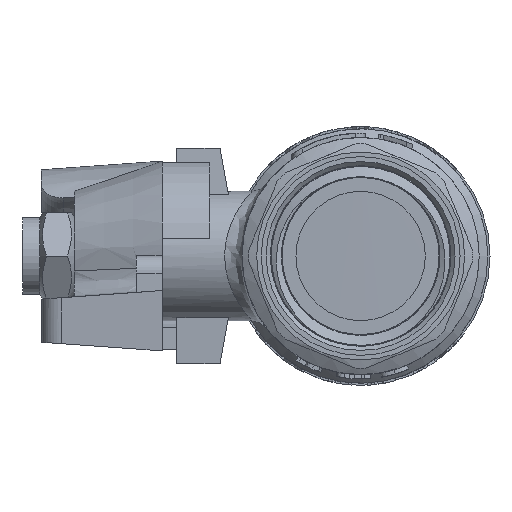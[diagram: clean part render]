
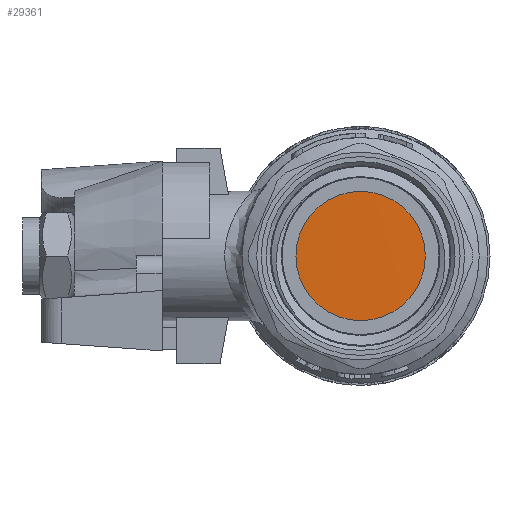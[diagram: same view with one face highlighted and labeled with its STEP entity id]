
A CAD part, left-side view. The second image highlights one B-rep face of the part: STEP entity #29361.
In plain terms, the highlighted cylindrical face has radius 13 mm (diameter 26 mm), a full revolution.
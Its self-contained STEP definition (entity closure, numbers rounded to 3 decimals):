
#635=CYLINDRICAL_SURFACE('',#31188,13.);
#3027=B_SPLINE_CURVE_WITH_KNOTS('',3,(#94407,#94408,#94409,#94410,#94411,
#94412,#94413,#94414,#94415,#94416,#94417,#94418,#94419,#94420,#94421,#94422,
#94423),.UNSPECIFIED.,.F.,.F.,(4,1,1,1,1,1,1,1,1,1,1,1,1,1,4),(12.566,
12.752,13.241,13.731,14.22,14.709,
15.198,15.687,16.176,16.665,17.154,
17.643,18.132,18.621,18.85),
 .UNSPECIFIED.);
#5232=FACE_OUTER_BOUND('',#6925,.T.);
#6925=EDGE_LOOP('',(#26968,#26969,#26970));
#8371=LINE('',#94169,#9806);
#8375=LINE('',#94406,#9810);
#9806=VECTOR('',#35920,13.);
#9810=VECTOR('',#35934,13.);
#13409=VERTEX_POINT('',#94167);
#13410=VERTEX_POINT('',#94168);
#13418=VERTEX_POINT('',#94405);
#17932=EDGE_CURVE('',#13409,#13410,#8371,.T.);
#17944=EDGE_CURVE('',#13418,#13410,#8375,.T.);
#17945=EDGE_CURVE('',#13418,#13409,#3027,.T.);
#26968=ORIENTED_EDGE('',*,*,#17932,.T.);
#26969=ORIENTED_EDGE('',*,*,#17944,.F.);
#26970=ORIENTED_EDGE('',*,*,#17945,.T.);
#29361=ADVANCED_FACE('',(#5232),#635,.T.);
#31188=AXIS2_PLACEMENT_3D('',#94404,#35932,#35933);
#35920=DIRECTION('',(1.,0.,0.));
#35932=DIRECTION('center_axis',(1.,0.,0.));
#35933=DIRECTION('ref_axis',(0.,0.,1.));
#35934=DIRECTION('',(-1.,0.,0.));
#94167=CARTESIAN_POINT('',(-3.497,0.,-13.));
#94168=CARTESIAN_POINT('',(-2.509,0.,-13.));
#94169=CARTESIAN_POINT('',(-3.5,0.,-13.));
#94404=CARTESIAN_POINT('Origin',(-3.5,0.,0.));
#94405=CARTESIAN_POINT('',(-2.496,0.,-13.));
#94406=CARTESIAN_POINT('',(-3.5,0.,-13.));
#94407=CARTESIAN_POINT('Ctrl Pts',(-2.496,0.,
-12.999));
#94408=CARTESIAN_POINT('Ctrl Pts',(-2.506,-0.806,
-13.));
#94409=CARTESIAN_POINT('Ctrl Pts',(-2.542,-3.732,
-12.732));
#94410=CARTESIAN_POINT('Ctrl Pts',(-2.604,-8.456,
-10.562));
#94411=CARTESIAN_POINT('Ctrl Pts',(-2.682,-12.427,-5.351));
#94412=CARTESIAN_POINT('Ctrl Pts',(-2.76,-13.484,
1.115));
#94413=CARTESIAN_POINT('Ctrl Pts',(-2.838,-11.379,7.319));
#94414=CARTESIAN_POINT('Ctrl Pts',(-2.915,-6.606,
11.807));
#94415=CARTESIAN_POINT('Ctrl Pts',(-2.993,-0.285,
13.527));
#94416=CARTESIAN_POINT('Ctrl Pts',(-3.071,6.104,12.075));
#94417=CARTESIAN_POINT('Ctrl Pts',(-3.149,11.061,7.791));
#94418=CARTESIAN_POINT('Ctrl Pts',(-3.227,13.425,1.681));
#94419=CARTESIAN_POINT('Ctrl Pts',(-3.305,12.641,-4.824));
#94420=CARTESIAN_POINT('Ctrl Pts',(-3.383,8.893,-10.197));
#94421=CARTESIAN_POINT('Ctrl Pts',(-3.447,4.097,-12.649));
#94422=CARTESIAN_POINT('Ctrl Pts',(-3.485,0.989,
-12.999));
#94423=CARTESIAN_POINT('Ctrl Pts',(-3.497,0.,
-12.999));
